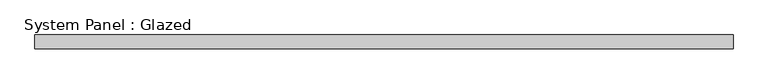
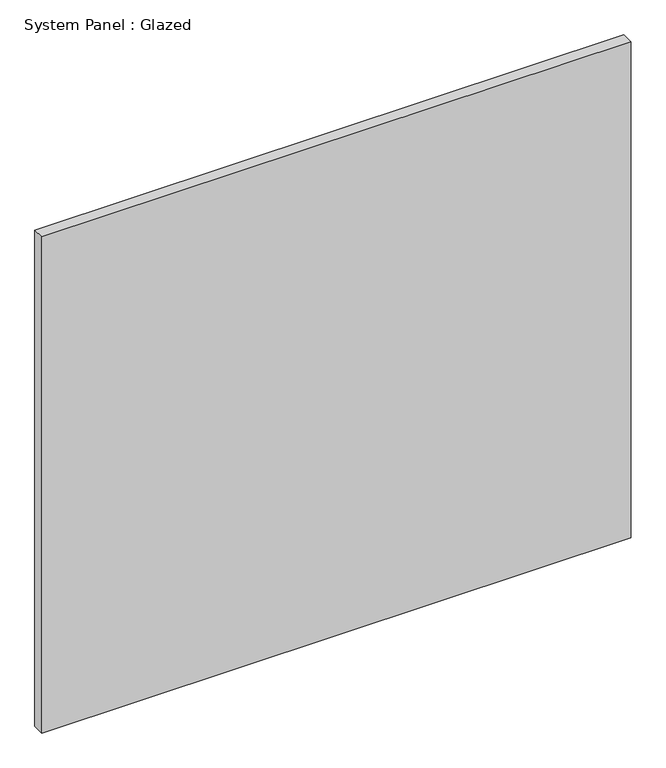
"""IFC4 building model written with IfcOpenShell, lengths in millimetres: plate geometry, System Panel : Glazed."""

from ifc_helpers import new_model, si_unit, origin, origin_with_axes, place, context, project, spatial, polyline, outline, extrude, source, transform, mapped, element, save


def system_panel_glazed_bdd96f24(model_context):
    return source(origin(), model_context, "Body", "SweptSolid", [
        extrude(outline(polyline([(638.175, 19.05), (-638.175, 19.05), (-638.175, 44.45), (638.175, 44.45), (638.175, 19.05)])), origin_with_axes(), (0.0, 0.0, 1.0), 1135.95),
    ])


if __name__ == "__main__":
    model = new_model("IFC4")
    model_context = context("Model", 3, world=origin())
    ifc_project = project(units=[si_unit("LENGTHUNIT", "METRE", prefix="MILLI")], contexts=[model_context])
    site = spatial("IfcSite", under=ifc_project)
    building = spatial("IfcBuilding", under=site)
    placement = place(None, origin())
    system_panel_glazed_shape = system_panel_glazed_bdd96f24(model_context)
    element("IfcPlate", 1, ObjectType="System Panel : Glazed", at=placement, inside=building, context=model_context, shape_type="MappedRepresentation", body=[
        mapped(system_panel_glazed_shape, transform((0.0, 0.0, 0.0), x_axis=(1.0, 0.0, 0.0), y_axis=(0.0, 1.0, 0.0), z_axis=(0.0, 0.0, 1.0))),
    ])
    save(model, "model.ifc")
